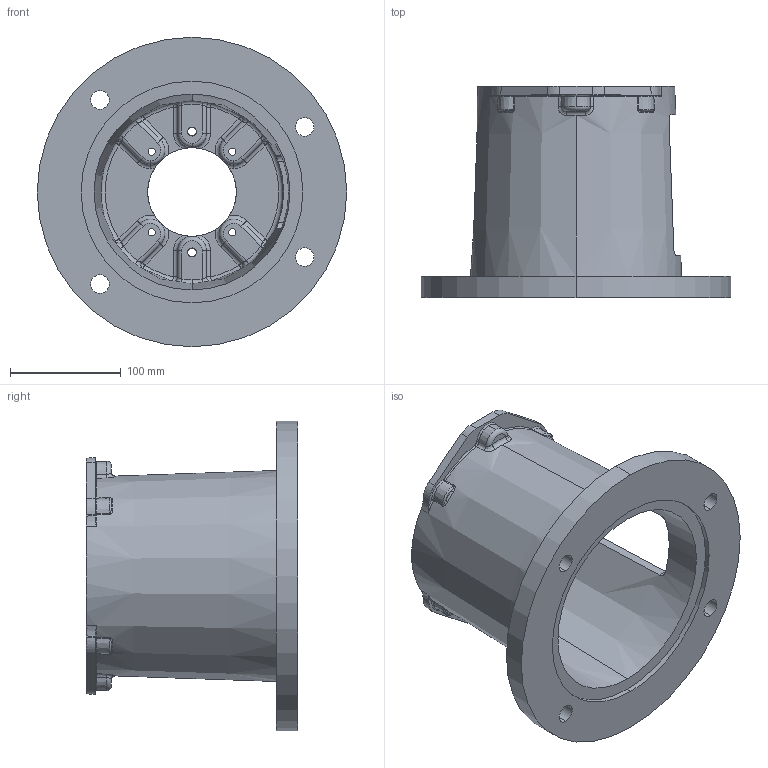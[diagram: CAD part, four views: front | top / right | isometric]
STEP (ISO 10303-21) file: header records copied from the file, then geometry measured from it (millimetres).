
FILE_DESCRIPTION (( 'STEP AP203' ), '1' );
FILE_NAME ('E7877580M.STEP', '2014-11-04T15:45:17', ( '' ), ( '' ), 'SwSTEP 2.0', 'SolidWorks 2014', '' );
FILE_SCHEMA (( 'CONFIG_CONTROL_DESIGN' ));
Length unit declared in the file: inch
Products named in the file (1): E7877580M
Bounding box: 279.4 x 190.5 x 279.4 mm (x, y, z)
Volume: 1550049.1 mm3; surface area: 324830.3 mm2
Topology: 1 solids, 1 shells, 339 faces, 853 edges, 506 vertices
Faces by surface type: torus 97, cylinder 86, bspline 64, plane 50, sphere 24, cone 18
Entity records: 13581 total; most frequent: CARTESIAN_POINT 5691, DIRECTION 1686, ORIENTED_EDGE 1682, EDGE_CURVE 841, AXIS2_PLACEMENT_3D 763, VERTEX_POINT 506, CIRCLE 487, EDGE_LOOP 365
